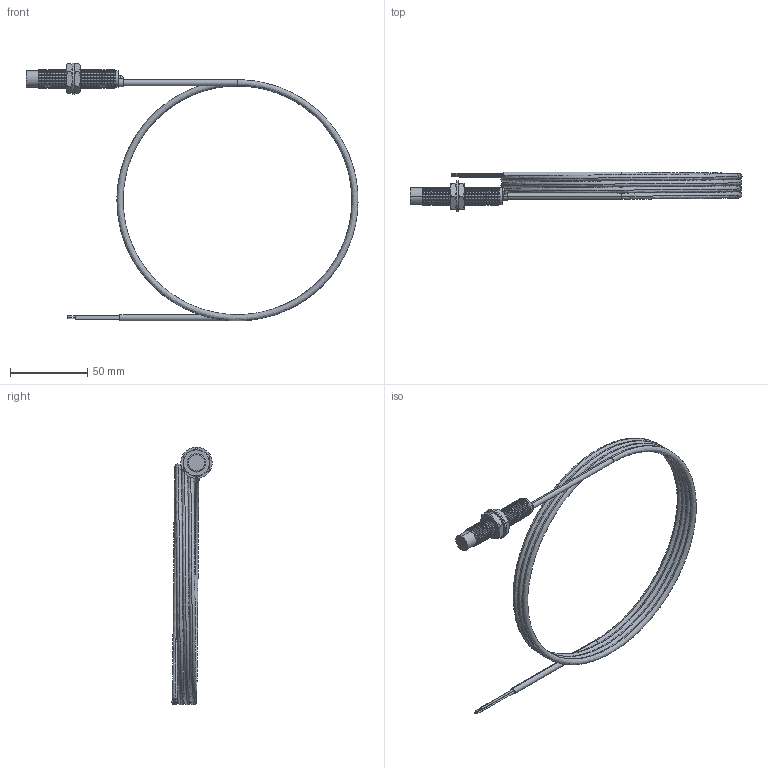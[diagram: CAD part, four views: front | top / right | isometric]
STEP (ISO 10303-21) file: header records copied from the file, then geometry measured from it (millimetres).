
FILE_DESCRIPTION (( 'STEP AP203' ), '1' );
FILE_NAME ('90-29417-054.STEP', '2015-11-11T14:27:37', ( 'Sam' ), ( 'Spade' ), 'SwSTEP 2.0', 'SolidWorks 2002296', '' );
FILE_SCHEMA (( 'CONFIG_CONTROL_DESIGN' ));
Length unit declared in the file: inch
Products named in the file (17): Imported7; Imported6; Imported5; Imported10; Imported9; Imported8; Imported14; Imported13; Imported12; Imported11; Imported15; 90-29417-054; Imported; Imported4; Imported3; Imported2; Imported1
Assembly tree (16 placements, depth 2):
  90-29417-054
    Imported13
    Imported5
    Imported15
    Imported7
    Imported3
    Imported14
    Imported10
    Imported
    Imported12
    Imported11
    Imported1
    Imported6
    Imported9
    Imported8
    Imported2
    Imported4
Bounding box: 215.33 x 26.1 x 167.13 mm (x, y, z)
Volume: 30178.4 mm3; surface area: 29200.6 mm2
Topology: 16 solids, 16 shells, 492 faces, 1015 edges, 556 vertices
Faces by surface type: cone 263, cylinder 142, plane 81, bspline 6
Entity records: 15573 total; most frequent: CARTESIAN_POINT 3241, DIRECTION 2423, ORIENTED_EDGE 2026, EDGE_CURVE 1013, AXIS2_PLACEMENT_3D 961, VERTEX_POINT 556, EDGE_LOOP 501, LINE 501
